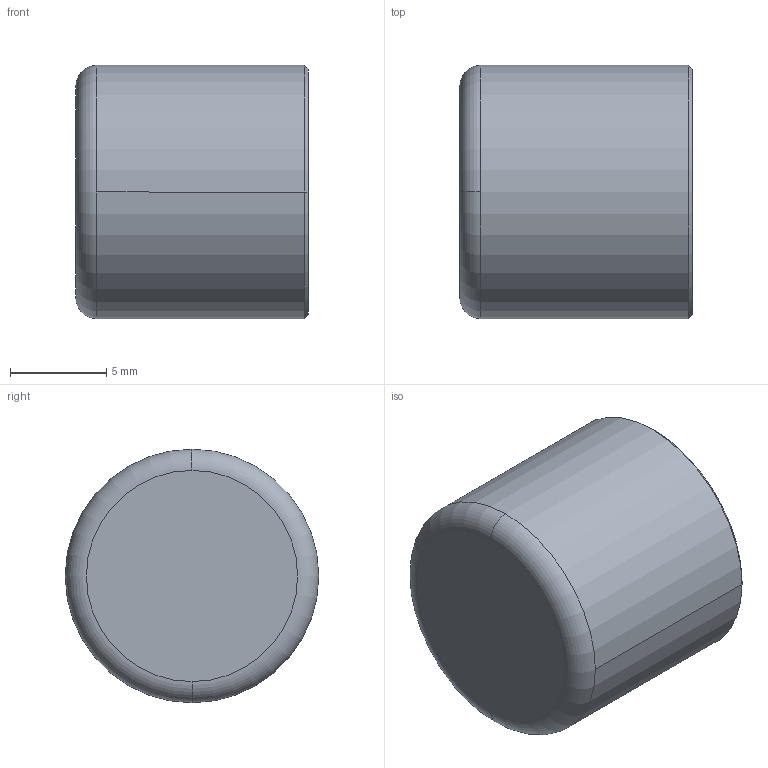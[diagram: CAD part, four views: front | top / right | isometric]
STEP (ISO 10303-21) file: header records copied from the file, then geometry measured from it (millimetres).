
FILE_DESCRIPTION((''),'2;1');
FILE_NAME('C:\sanha_work\5130\f\530112.stp','2005-10-21T18:20:01',('Kris'),(''),'Autodesk Inventor 8','Autodesk Inventor 8','');
FILE_SCHEMA(('AUTOMOTIVE_DESIGN { 1 0 10303 214 1 1 1 1 }'));
Length unit declared in the file: millimetre
Products named in the file (1): 530112
Bounding box: 12.1 x 13.2 x 13.2 mm (x, y, z)
Volume: 345.3 mm3; surface area: 1171.4 mm2
Topology: 1 solids, 1 shells, 15 faces, 34 edges, 22 vertices
Faces by surface type: torus 4, cylinder 4, cone 4, plane 3
Entity records: 461 total; most frequent: DIRECTION 92, CARTESIAN_POINT 72, ORIENTED_EDGE 68, AXIS2_PLACEMENT_3D 42, EDGE_CURVE 34, CIRCLE 26, VERTEX_POINT 22, EDGE_LOOP 16
